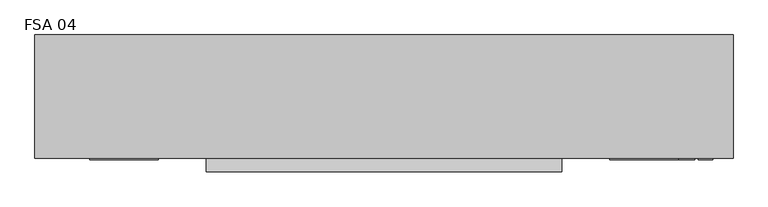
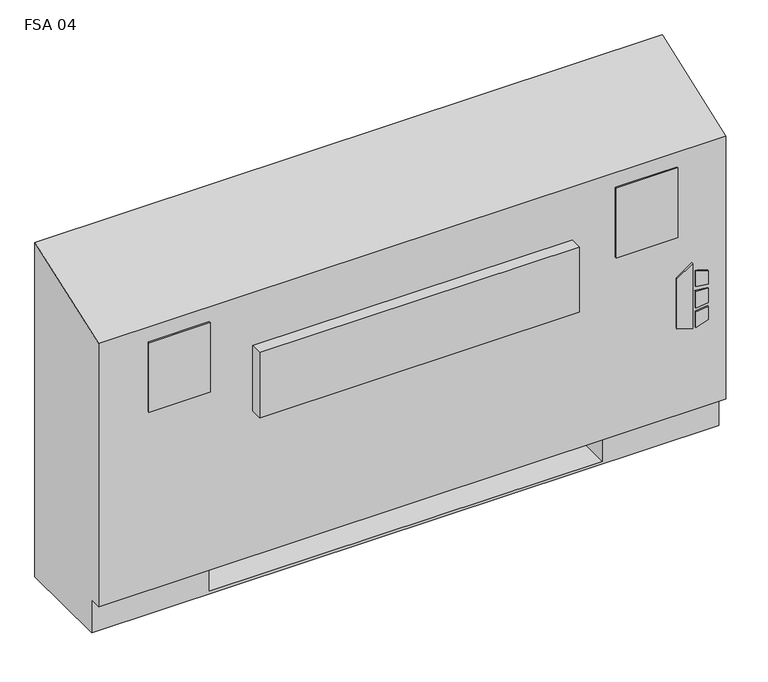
"""IFC4 building model written with IfcOpenShell, lengths in millimetres: proxy geometry, Vertical_Fan_Coil_Unit_-_FSA_-_IEC_-_2-Pipe_FS-FR_LH_2022 : FSA 04."""

from ifc_helpers import new_model, si_unit, point, frame, frame_2d, origin, place, context, project, spatial, polyline, circle_curve, trimmed, segment, composite_curve, outline, extrude, source, transform, mapped, element, save
from ifc_brep_helpers import plane_surface, revolved_surface, advanced_brep


def fsa_04_7151d022(model_context):
    return source(origin(), model_context, "Body", "SolidModel", [
        extrude(outline(polyline([(263.9480703, 696.9868862), (254.0, 729.1602728), (396.1709244, 729.1602728), (373.1489183, 696.9868862), (263.9480703, 696.9868862)])), frame((0.0, 12.7, 0.0), z_axis=(0.0, 1.0, 0.0), x_axis=(0.0, 0.0, 1.0)), (0.0, 0.0, 1.0), 3.175),
        extrude(outline(polyline([(342.9473557, 735.9186058), (339.7449632, 762.0), (368.9738042, 762.0), (377.0382193, 735.9186058), (342.9473557, 735.9186058)])), frame((0.0, 12.7, 0.0), z_axis=(0.0, 1.0, 0.0), x_axis=(0.0, 0.0, 1.0)), (0.0, 0.0, 1.0), 3.175),
        extrude(outline(polyline([(291.0838288, 762.0), (287.4183279, 735.9186058), (254.0, 735.9186058), (262.6342372, 762.0), (291.0838288, 762.0)])), frame((0.0, 12.7, 0.0), z_axis=(0.0, 1.0, 0.0), x_axis=(0.0, 0.0, 1.0)), (0.0, 0.0, 1.0), 3.175),
        extrude(outline(polyline([(330.3989903, 762.0), (332.6808166, 735.9186058), (296.7432681, 735.9186058), (299.4845331, 762.0), (330.3989903, 762.0)])), frame((0.0, 12.7, 0.0), z_axis=(0.0, 1.0, 0.0), x_axis=(0.0, 0.0, 1.0)), (0.0, 0.0, 1.0), 3.175),
        extrude(outline(polyline([(679.45, 223.266), (679.45, 81.534), (558.8, 81.534), (558.8, 223.266), (679.45, 223.266)])), frame((0.0, 0.0, 327.025), z_axis=(0.0, 0.0, 1.0), x_axis=(1.0, 0.0, 0.0)), (0.0, 0.0, 1.0), 260.35),
        extrude(outline(polyline([(-266.7, 12.7), (-393.7, 12.7), (-393.7, 15.875), (-266.7, 15.875), (-266.7, 12.7)])), frame((0.0, 0.0, 463.55), z_axis=(0.0, 0.0, 1.0), x_axis=(1.0, 0.0, 0.0)), (0.0, 0.0, 1.0), 152.4),
        extrude(outline(polyline([(698.5, 12.7), (571.5, 12.7), (571.5, 15.875), (698.5, 15.875), (698.5, 12.7)])), frame((0.0, 0.0, 463.55), z_axis=(0.0, 0.0, 1.0), x_axis=(1.0, 0.0, 0.0)), (0.0, 0.0, 1.0), 152.4),
        extrude(outline(composite_curve([segment(trimmed(circle_curve(frame_2d((-317.5, 130.175)), 9.525), [point((-327.025, 130.175))], [point((-307.975, 130.175))], False, "CARTESIAN"), True, "CONTINUOUS"), segment(trimmed(circle_curve(frame_2d((-317.5, 130.175)), 9.525), [point((-307.975, 130.175))], [point((-327.025, 130.175))], False, "CARTESIAN"), True, "CONTINUOUS")], self_intersect=False)), frame((0.0, 0.0, 101.6), z_axis=(0.0, 0.0, 1.0), x_axis=(1.0, 0.0, 0.0)), (0.0, 0.0, 1.0), 25.4),
        extrude(outline(polyline([(-419.1, 63.5), (-419.1, 196.85), (-254.0, 196.85), (-254.0, 63.5), (-419.1, 63.5)])), frame((0.0, 0.0, 127.0), z_axis=(0.0, 0.0, 1.0), x_axis=(1.0, 0.0, 0.0)), (0.0, 0.0, 1.0), 50.8),
        extrude(outline(polyline([(482.6, -9.525), (-177.8, -9.525), (-177.8, 15.875), (482.6, 15.875), (482.6, -9.525)])), frame((0.0, 0.0, 389.3009245), z_axis=(0.0, 0.0, 1.0), x_axis=(1.0, 0.0, 0.0)), (0.0, 0.0, 1.0), 142.875),
        extrude(outline(composite_curve([segment(trimmed(circle_curve(frame_2d((109.347, 456.819)), 7.9375), [point((109.347, 464.7565))], [point((109.347, 448.8815))], False, "CARTESIAN"), True, "CONTINUOUS"), segment(trimmed(circle_curve(frame_2d((109.347, 456.819)), 7.9375), [point((109.347, 448.8815))], [point((109.347, 464.7565))], False, "CARTESIAN"), True, "CONTINUOUS")], self_intersect=False)), frame((-304.8, 0.0, 0.0), z_axis=(1.0, 0.0, 0.0), x_axis=(0.0, 1.0, 0.0)), (0.0, 0.0, 1.0), 50.8),
        extrude(outline(composite_curve([segment(trimmed(circle_curve(frame_2d((157.4546, 429.4632)), 7.9375), [point((157.4546, 437.4007))], [point((157.4546, 421.5257))], False, "CARTESIAN"), True, "CONTINUOUS"), segment(trimmed(circle_curve(frame_2d((157.4546, 429.4632)), 7.9375), [point((157.4546, 421.5257))], [point((157.4546, 437.4007))], False, "CARTESIAN"), True, "CONTINUOUS")], self_intersect=False)), frame((-304.8, 0.0, 0.0), z_axis=(1.0, 0.0, 0.0), x_axis=(0.0, 1.0, 0.0)), (0.0, 0.0, 1.0), 50.8),
        advanced_brep(
        [(-495.3, 244.475, 0.0), (800.1, 244.475, 0.0), (800.1, 41.275, 0.0), (-495.3, 41.275, 0.0), (-495.3, 244.475, 730.25), (800.1, 244.475, 730.25), (558.8, 244.475, 73.025), (787.4, 244.475, 73.025), (787.4, 244.475, 654.05), (558.8, 244.475, 654.05), (558.8, 244.475, 414.8650565), (587.375, 244.475, 414.8650565), (587.375, 244.475, 385.2349435), (558.8, 244.475, 385.2349435), (558.8, 244.475, 287.3375), (587.375, 244.475, 287.3375), (587.375, 244.475, 258.7625), (558.8, 244.475, 258.7625), (558.8, 244.475, 141.2875), (587.375, 244.475, 141.2875), (587.375, 244.475, 112.7125), (558.8, 244.475, 112.7125), (-254.0, 244.475, 654.05), (-482.6, 244.475, 654.05), (-482.6, 244.475, 73.025), (-254.0, 244.475, 73.025), (-254.0, 244.475, 112.7125), (-282.575, 244.475, 112.7125), (-282.575, 244.475, 141.2875), (-254.0, 244.475, 141.2875), (-254.0, 244.475, 258.7625), (-282.575, 244.475, 258.7625), (-282.575, 244.475, 287.3375), (-254.0, 244.475, 287.3375), (-254.0, 244.475, 385.2349435), (-282.575, 244.475, 385.2349435), (-282.575, 244.475, 414.8650565), (-254.0, 244.475, 414.8650565), (577.0626, 244.475, 127.0), (565.9374, 244.475, 127.0), (577.0626, 244.475, 400.05), (565.9374, 244.475, 400.05), (577.0626, 244.475, 273.05), (565.9374, 244.475, 273.05), (-261.1374, 244.475, 127.0), (-272.2626, 244.475, 127.0), (-261.1374, 244.475, 273.05), (-272.2626, 244.475, 273.05), (-261.1374, 244.475, 400.05), (-272.2626, 244.475, 400.05), (-495.3, 41.275, 73.025), (-495.3, 15.875, 73.025), (-495.3, 15.875, 647.7), (800.1, 15.875, 73.025), (800.1, 15.875, 647.7), (800.1, 41.275, 73.025), (-254.0, 41.275, 73.025), (-254.0, 225.425, 73.025), (558.8, 225.425, 73.025), (558.8, 41.275, 73.025), (558.8, 41.275, 6.35), (-254.0, 41.275, 6.35), (558.8, 41.275, 654.05), (787.4, 41.275, 654.05), (787.4, 41.275, 73.025), (558.8, 41.275, 73.025), (-254.0, 41.275, 654.05), (-254.0, 41.275, 73.025), (-482.6, 41.275, 73.025), (-482.6, 41.275, 654.05), (558.8, 225.425, 73.025), (558.8, 238.125, 112.7125), (558.8, 238.125, 141.2875), (558.8, 238.125, 258.7625), (558.8, 238.125, 287.3375), (558.8, 238.125, 385.2349435), (558.8, 238.125, 414.8650565), (-254.0, 225.425, 73.025), (-254.0, 238.125, 414.8650565), (-254.0, 238.125, 385.2349435), (-254.0, 238.125, 287.3375), (-254.0, 238.125, 258.7625), (-254.0, 238.125, 141.2875), (-254.0, 238.125, 112.7125), (-254.0, 225.425, 6.35), (558.8, 225.425, 6.35), (587.375, 238.125, 112.7125), (587.375, 238.125, 141.2875), (565.9374, 238.125, 127.0), (577.0626, 238.125, 127.0), (587.375, 238.125, 258.7625), (587.375, 238.125, 287.3375), (565.9374, 238.125, 273.05), (577.0626, 238.125, 273.05), (587.375, 238.125, 385.2349435), (587.375, 238.125, 414.8650565), (565.9374, 238.125, 400.05), (577.0626, 238.125, 400.05), (-282.575, 238.125, 141.2875), (-282.575, 238.125, 112.7125), (-272.2626, 238.125, 127.0), (-261.1374, 238.125, 127.0), (-282.575, 238.125, 287.3375), (-282.575, 238.125, 258.7625), (-272.2626, 238.125, 273.05), (-261.1374, 238.125, 273.05), (-282.575, 238.125, 414.8650565), (-282.575, 238.125, 385.2349435), (-272.2626, 238.125, 400.05), (-261.1374, 238.125, 400.05)],
        [
            (0, 1),
            (1, 2),
            (2, 3),
            (3, 0),
            (0, 4),
            (4, 5),
            (5, 1),
            (6, 7),
            (7, 8),
            (8, 9),
            (9, 10),
            (10, 11),
            (11, 12),
            (12, 13),
            (13, 14),
            (14, 15),
            (15, 16),
            (16, 17),
            (17, 18),
            (18, 19),
            (19, 20),
            (20, 21),
            (21, 6),
            (22, 23),
            (23, 24),
            (24, 25),
            (25, 26),
            (26, 27),
            (27, 28),
            (28, 29),
            (29, 30),
            (30, 31),
            (31, 32),
            (32, 33),
            (33, 34),
            (34, 35),
            (35, 36),
            (36, 37),
            (37, 22),
            (38, 39, circle_curve(frame((571.5, 244.475, 127.0), z_axis=(0.0, -1.0, 0.0), x_axis=(-1.0, 0.0, 0.0)), 5.5626)),
            (39, 38, circle_curve(frame((571.5, 244.475, 127.0), z_axis=(0.0, -1.0, 0.0), x_axis=(-1.0, 0.0, 0.0)), 5.5626)),
            (40, 41, circle_curve(frame((571.5, 244.475, 400.05), z_axis=(0.0, -1.0, 0.0), x_axis=(-1.0, 0.0, 0.0)), 5.5626)),
            (41, 40, circle_curve(frame((571.5, 244.475, 400.05), z_axis=(0.0, -1.0, 0.0), x_axis=(-1.0, 0.0, 0.0)), 5.5626)),
            (42, 43, circle_curve(frame((571.5, 244.475, 273.05), z_axis=(0.0, -1.0, 0.0), x_axis=(-1.0, 0.0, 0.0)), 5.5626)),
            (43, 42, circle_curve(frame((571.5, 244.475, 273.05), z_axis=(0.0, -1.0, 0.0), x_axis=(-1.0, 0.0, 0.0)), 5.5626)),
            (44, 45, circle_curve(frame((-266.7, 244.475, 127.0), z_axis=(0.0, -1.0, 0.0), x_axis=(-1.0, 0.0, 0.0)), 5.5626)),
            (45, 44, circle_curve(frame((-266.7, 244.475, 127.0), z_axis=(0.0, -1.0, 0.0), x_axis=(-1.0, 0.0, 0.0)), 5.5626)),
            (46, 47, circle_curve(frame((-266.7, 244.475, 273.05), z_axis=(0.0, -1.0, 0.0), x_axis=(-1.0, 0.0, 0.0)), 5.5626)),
            (47, 46, circle_curve(frame((-266.7, 244.475, 273.05), z_axis=(0.0, -1.0, 0.0), x_axis=(-1.0, 0.0, 0.0)), 5.5626)),
            (48, 49, circle_curve(frame((-266.7, 244.475, 400.05), z_axis=(0.0, -1.0, 0.0), x_axis=(-1.0, 0.0, 0.0)), 5.5626)),
            (49, 48, circle_curve(frame((-266.7, 244.475, 400.05), z_axis=(0.0, -1.0, 0.0), x_axis=(-1.0, 0.0, 0.0)), 5.5626)),
            (3, 50),
            (50, 51),
            (51, 52),
            (52, 4),
            (51, 53),
            (53, 54),
            (54, 52),
            (5, 54),
            (53, 55),
            (55, 2),
            (50, 56),
            (56, 57),
            (57, 58),
            (58, 59),
            (59, 55),
            (59, 60),
            (60, 61),
            (61, 56),
            (62, 63),
            (63, 64),
            (64, 65),
            (65, 62),
            (66, 67),
            (67, 68),
            (68, 69),
            (69, 66),
            (65, 70),
            (70, 6),
            (21, 71),
            (71, 72),
            (72, 18),
            (17, 73),
            (73, 74),
            (74, 14),
            (13, 75),
            (75, 76),
            (76, 10),
            (9, 62),
            (64, 7),
            (63, 8),
            (69, 23),
            (22, 66),
            (68, 24),
            (67, 77),
            (77, 25),
            (37, 78),
            (78, 79),
            (79, 34),
            (33, 80),
            (80, 81),
            (81, 30),
            (29, 82),
            (82, 83),
            (83, 26),
            (57, 84),
            (84, 85),
            (85, 58),
            (85, 60),
            (84, 61),
            (71, 86),
            (86, 87),
            (87, 72),
            (88, 89, circle_curve(frame((571.5, 238.125, 127.0), z_axis=(0.0, 1.0, 0.0), x_axis=(-1.0, 0.0, 0.0)), 5.5626)),
            (89, 88, circle_curve(frame((571.5, 238.125, 127.0), z_axis=(0.0, 1.0, 0.0), x_axis=(-1.0, 0.0, 0.0)), 5.5626)),
            (73, 90),
            (90, 91),
            (91, 74),
            (92, 93, circle_curve(frame((571.5, 238.125, 273.05), z_axis=(0.0, 1.0, 0.0), x_axis=(-1.0, 0.0, 0.0)), 5.5626)),
            (93, 92, circle_curve(frame((571.5, 238.125, 273.05), z_axis=(0.0, 1.0, 0.0), x_axis=(-1.0, 0.0, 0.0)), 5.5626)),
            (75, 94),
            (94, 95),
            (95, 76),
            (96, 97, circle_curve(frame((571.5, 238.125, 400.05), z_axis=(0.0, 1.0, 0.0), x_axis=(-1.0, 0.0, 0.0)), 5.5626)),
            (97, 96, circle_curve(frame((571.5, 238.125, 400.05), z_axis=(0.0, 1.0, 0.0), x_axis=(-1.0, 0.0, 0.0)), 5.5626)),
            (98, 99),
            (99, 83),
            (82, 98),
            (100, 101, circle_curve(frame((-266.7, 238.125, 127.0), z_axis=(0.0, 1.0, 0.0), x_axis=(-1.0, 0.0, 0.0)), 5.5626)),
            (101, 100, circle_curve(frame((-266.7, 238.125, 127.0), z_axis=(0.0, 1.0, 0.0), x_axis=(-1.0, 0.0, 0.0)), 5.5626)),
            (102, 103),
            (103, 81),
            (80, 102),
            (104, 105, circle_curve(frame((-266.7, 238.125, 273.05), z_axis=(0.0, 1.0, 0.0), x_axis=(-1.0, 0.0, 0.0)), 5.5626)),
            (105, 104, circle_curve(frame((-266.7, 238.125, 273.05), z_axis=(0.0, 1.0, 0.0), x_axis=(-1.0, 0.0, 0.0)), 5.5626)),
            (106, 107),
            (107, 79),
            (78, 106),
            (108, 109, circle_curve(frame((-266.7, 238.125, 400.05), z_axis=(0.0, 1.0, 0.0), x_axis=(-1.0, 0.0, 0.0)), 5.5626)),
            (109, 108, circle_curve(frame((-266.7, 238.125, 400.05), z_axis=(0.0, 1.0, 0.0), x_axis=(-1.0, 0.0, 0.0)), 5.5626)),
            (87, 19),
            (86, 20),
            (91, 15),
            (90, 16),
            (95, 11),
            (94, 12),
            (28, 98),
            (99, 27),
            (32, 102),
            (103, 31),
            (36, 106),
            (107, 35),
            (88, 39),
            (38, 89),
            (96, 41),
            (40, 97),
            (92, 43),
            (42, 93),
            (100, 45),
            (44, 101),
            (104, 47),
            (46, 105),
            (108, 49),
            (48, 109),
        ],
        [
            plane_surface(frame((-495.3, 244.475, 0.0), z_axis=(0.0, 0.0, -1.0), x_axis=(1.0, 0.0, 0.0))),
            plane_surface(frame((800.1, 244.475, 730.25), z_axis=(0.0, 1.0, 0.0), x_axis=(0.0, 0.0, -1.0))),
            plane_surface(frame((-495.3, 244.475, 730.25), z_axis=(-1.0, 0.0, 0.0), x_axis=(0.0, 0.0, -1.0))),
            plane_surface(frame((-495.3, 15.875, 730.25), z_axis=(0.0, -1.0, 0.0), x_axis=(0.0, 0.0, -1.0))),
            plane_surface(frame((800.1, 15.875, 730.25), z_axis=(1.0, 0.0, 0.0), x_axis=(0.0, 0.0, -1.0))),
            plane_surface(frame((-495.3, 15.875, 73.025), z_axis=(0.0, 0.0, -1.0), x_axis=(1.0, 0.0, 0.0))),
            plane_surface(frame((-495.3, 41.275, 73.025), z_axis=(0.0, -1.0, 0.0), x_axis=(1.0, 0.0, 0.0))),
            plane_surface(frame((558.8, 41.275, 654.05), z_axis=(0.0, 1.0, 0.0), x_axis=(0.0, 0.0, -1.0))),
            plane_surface(frame((558.8, 41.275, 654.05), z_axis=(1.0, 0.0, 0.0), x_axis=(0.0, 1.0, 0.0))),
            plane_surface(frame((558.8, 41.275, 73.025), z_axis=(0.0, 0.0, 1.0), x_axis=(0.0, 1.0, 0.0))),
            plane_surface(frame((787.4, 41.275, 73.025), z_axis=(-1.0, 0.0, 0.0), x_axis=(0.0, 1.0, 0.0))),
            plane_surface(frame((787.4, 41.275, 654.05), z_axis=(0.0, 0.0, -1.0), x_axis=(0.0, 1.0, 0.0))),
            plane_surface(frame((-254.0, 41.275, 654.05), z_axis=(0.0, 0.0, -1.0), x_axis=(0.0, 1.0, 0.0))),
            plane_surface(frame((-482.6, 41.275, 654.05), z_axis=(1.0, 0.0, 0.0), x_axis=(0.0, 1.0, 0.0))),
            plane_surface(frame((-482.6, 41.275, 73.025), z_axis=(0.0, 0.0, 1.0), x_axis=(0.0, 1.0, 0.0))),
            plane_surface(frame((-254.0, 41.275, 73.025), z_axis=(-1.0, 0.0, 0.0), x_axis=(0.0, 1.0, 0.0))),
            plane_surface(frame((558.8, 225.425, 73.025), z_axis=(0.0, -1.0, 0.0), x_axis=(0.0, 0.0, -1.0))),
            plane_surface(frame((558.8, 225.425, 73.025), z_axis=(-1.0, 0.0, 0.0), x_axis=(0.0, -1.0, 0.0))),
            plane_surface(frame((558.8, 225.425, 6.35), z_axis=(0.0, 0.0, 1.0), x_axis=(0.0, -1.0, 0.0))),
            plane_surface(frame((-254.0, 225.425, 6.35), z_axis=(1.0, 0.0, 0.0), x_axis=(0.0, -1.0, 0.0))),
            plane_surface(frame((587.375, 238.125, 141.2875), z_axis=(0.0, -1.0, 0.0), x_axis=(-1.0, 0.0, 0.0))),
            plane_surface(frame((558.8, 244.475, 141.2875), z_axis=(0.0, 0.0, 1.0), x_axis=(0.0, -1.0, 0.0))),
            plane_surface(frame((587.375, 244.475, 141.2875), z_axis=(1.0, 0.0, 0.0), x_axis=(0.0, -1.0, 0.0))),
            plane_surface(frame((587.375, 244.475, 112.7125), z_axis=(0.0, 0.0, -1.0), x_axis=(0.0, -1.0, 0.0))),
            plane_surface(frame((558.8, 244.475, 287.3375), z_axis=(0.0, 0.0, 1.0), x_axis=(0.0, -1.0, 0.0))),
            plane_surface(frame((587.375, 244.475, 287.3375), z_axis=(1.0, 0.0, 0.0), x_axis=(0.0, -1.0, 0.0))),
            plane_surface(frame((587.375, 244.475, 258.7625), z_axis=(0.0, 0.0, -1.0), x_axis=(0.0, -1.0, 0.0))),
            plane_surface(frame((558.8, 244.475, 414.8650565), z_axis=(0.0, 0.0, 1.0), x_axis=(0.0, -1.0, 0.0))),
            plane_surface(frame((587.375, 244.475, 414.8650565), z_axis=(1.0, 0.0, 0.0), x_axis=(0.0, -1.0, 0.0))),
            plane_surface(frame((587.375, 244.475, 385.2349435), z_axis=(0.0, 0.0, -1.0), x_axis=(0.0, -1.0, 0.0))),
            plane_surface(frame((-282.575, 244.475, 141.2875), z_axis=(0.0, 0.0, 1.0), x_axis=(0.0, -1.0, 0.0))),
            plane_surface(frame((-254.0, 244.475, 112.7125), z_axis=(0.0, 0.0, -1.0), x_axis=(0.0, -1.0, 0.0))),
            plane_surface(frame((-282.575, 244.475, 112.7125), z_axis=(-1.0, 0.0, 0.0), x_axis=(0.0, -1.0, 0.0))),
            plane_surface(frame((-282.575, 244.475, 287.3375), z_axis=(0.0, 0.0, 1.0), x_axis=(0.0, -1.0, 0.0))),
            plane_surface(frame((-254.0, 244.475, 258.7625), z_axis=(0.0, 0.0, -1.0), x_axis=(0.0, -1.0, 0.0))),
            plane_surface(frame((-282.575, 244.475, 258.7625), z_axis=(-1.0, 0.0, 0.0), x_axis=(0.0, -1.0, 0.0))),
            plane_surface(frame((-282.575, 244.475, 414.8650565), z_axis=(0.0, 0.0, 1.0), x_axis=(0.0, -1.0, 0.0))),
            plane_surface(frame((-254.0, 244.475, 385.2349435), z_axis=(0.0, 0.0, -1.0), x_axis=(0.0, -1.0, 0.0))),
            plane_surface(frame((-282.575, 244.475, 385.2349435), z_axis=(-1.0, 0.0, 0.0), x_axis=(0.0, -1.0, 0.0))),
            revolved_surface(polyline([(565.9374, 238.125, 127.0), (565.9374, 244.475, 127.0)]), (571.5, 244.475, 127.0), (0.0, -1.0, 0.0)),
            revolved_surface(polyline([(565.9374, 238.125, 400.05), (565.9374, 244.475, 400.05)]), (571.5, 244.475, 400.05), (0.0, -1.0, 0.0)),
            revolved_surface(polyline([(565.9374, 238.125, 273.05), (565.9374, 244.475, 273.05)]), (571.5, 244.475, 273.05), (0.0, -1.0, 0.0)),
            revolved_surface(polyline([(-272.26259999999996, 238.125, 127.0), (-272.26259999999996, 244.475, 127.0)]), (-266.7, 244.475, 127.0), (0.0, -1.0, 0.0)),
            revolved_surface(polyline([(-272.26259999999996, 238.125, 273.05), (-272.26259999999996, 244.475, 273.05)]), (-266.7, 244.475, 273.05), (0.0, -1.0, 0.0)),
            revolved_surface(polyline([(-272.26259999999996, 238.125, 400.05), (-272.26259999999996, 244.475, 400.05)]), (-266.7, 244.475, 400.05), (0.0, -1.0, 0.0)),
            plane_surface(frame((-495.3, 244.475, 730.25), z_axis=(0.0, -0.33964446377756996, 0.9405538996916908), x_axis=(1.0, 0.0, 0.0))),
        ],
        [
            (0, [[1, 2, 3, 4]]),
            (1, [[-1, 5, 6, 7], [8, 9, 10, 11, 12, 13, 14, 15, 16, 17, 18, 19, 20, 21, 22, 23], [24, 25, 26, 27, 28, 29, 30, 31, 32, 33, 34, 35, 36, 37, 38, 39], [40, 41], [42, 43], [44, 45], [46, 47], [48, 49], [50, 51]]),
            (2, [[-5, -4, 52, 53, 54, 55]]),
            (3, [[56, 57, 58, -54]]),
            (4, [[-7, 59, -57, 60, 61, -2]]),
            (5, [[-53, 62, 63, 64, 65, 66, -60, -56]]),
            (6, [[-3, -61, -66, 67, 68, 69, -62, -52]]),
            (7, [[70, 71, 72, 73]]),
            (7, [[74, 75, 76, 77]]),
            (8, [[-73, 78, 79, -23, 80, 81, 82, -19, 83, 84, 85, -15, 86, 87, 88, -11, 89]]),
            (9, [[-72, 90, -8, -79, -78]]),
            (10, [[-71, 91, -9, -90]]),
            (11, [[-70, -89, -10, -91]]),
            (12, [[-77, 92, -24, 93]]),
            (13, [[-76, 94, -25, -92]]),
            (14, [[-75, 95, 96, -26, -94]]),
            (15, [[-74, -93, -39, 97, 98, 99, -35, 100, 101, 102, -31, 103, 104, 105, -27, -96, -95]]),
            (16, [[-64, 106, 107, 108]]),
            (17, [[-108, 109, -67, -65]]),
            (18, [[-107, 110, -68, -109]]),
            (19, [[-106, -63, -69, -110]]),
            (20, [[111, 112, 113, -81], [114, 115]]),
            (20, [[116, 117, 118, -84], [119, 120]]),
            (20, [[121, 122, 123, -87], [124, 125]]),
            (20, [[126, 127, -104, 128], [129, 130]]),
            (20, [[131, 132, -101, 133], [134, 135]]),
            (20, [[136, 137, -98, 138], [139, 140]]),
            (21, [[-113, 141, -20, -82]]),
            (22, [[-112, 142, -21, -141]]),
            (23, [[-111, -80, -22, -142]]),
            (24, [[-118, 143, -16, -85]]),
            (25, [[-117, 144, -17, -143]]),
            (26, [[-116, -83, -18, -144]]),
            (27, [[-123, 145, -12, -88]]),
            (28, [[-122, 146, -13, -145]]),
            (29, [[-121, -86, -14, -146]]),
            (30, [[-128, -103, -30, 147]]),
            (31, [[-127, 148, -28, -105]]),
            (32, [[-126, -147, -29, -148]]),
            (33, [[-133, -100, -34, 149]]),
            (34, [[-132, 150, -32, -102]]),
            (35, [[-131, -149, -33, -150]]),
            (36, [[-138, -97, -38, 151]]),
            (37, [[-137, 152, -36, -99]]),
            (38, [[-136, -151, -37, -152]]),
            (39, [[153, -40, 154, -114]]),
            (39, [[-153, -115, -154, -41]]),
            (40, [[155, -42, 156, -124]]),
            (40, [[-155, -125, -156, -43]]),
            (41, [[157, -44, 158, -119]]),
            (41, [[-157, -120, -158, -45]]),
            (42, [[159, -46, 160, -129]]),
            (42, [[-159, -130, -160, -47]]),
            (43, [[161, -48, 162, -134]]),
            (43, [[-161, -135, -162, -49]]),
            (44, [[163, -50, 164, -139]]),
            (44, [[-163, -140, -164, -51]]),
            (45, [[-6, -55, -58, -59]]),
        ],
    ),
    ])


if __name__ == "__main__":
    model = new_model("IFC4")
    model_context = context("Model", 3, world=origin())
    ifc_project = project(units=[si_unit("LENGTHUNIT", "METRE", prefix="MILLI")], contexts=[model_context])
    site = spatial("IfcSite", under=ifc_project)
    building = spatial("IfcBuilding", under=site)
    placement = place(None, origin())
    fsa_04_shape = fsa_04_7151d022(model_context)
    element("IfcBuildingElementProxy", 1, Name="Vertical_Fan_Coil_Unit_-_FSA_-_IEC_-_2-Pipe_FS-FR_LH_2022 : FSA 04", ObjectType="Vertical_Fan_Coil_Unit_-_FSA_-_IEC_-_2-Pipe_FS-FR_LH_2022 : FSA 04", at=placement, inside=building, context=model_context, shape_type="MappedRepresentation", body=[
        mapped(fsa_04_shape, transform((0.0, 0.0, 0.0), x_axis=(1.0, 0.0, 0.0), y_axis=(0.0, 1.0, 0.0), z_axis=(0.0, 0.0, 1.0))),
    ])
    save(model, "model.ifc")
